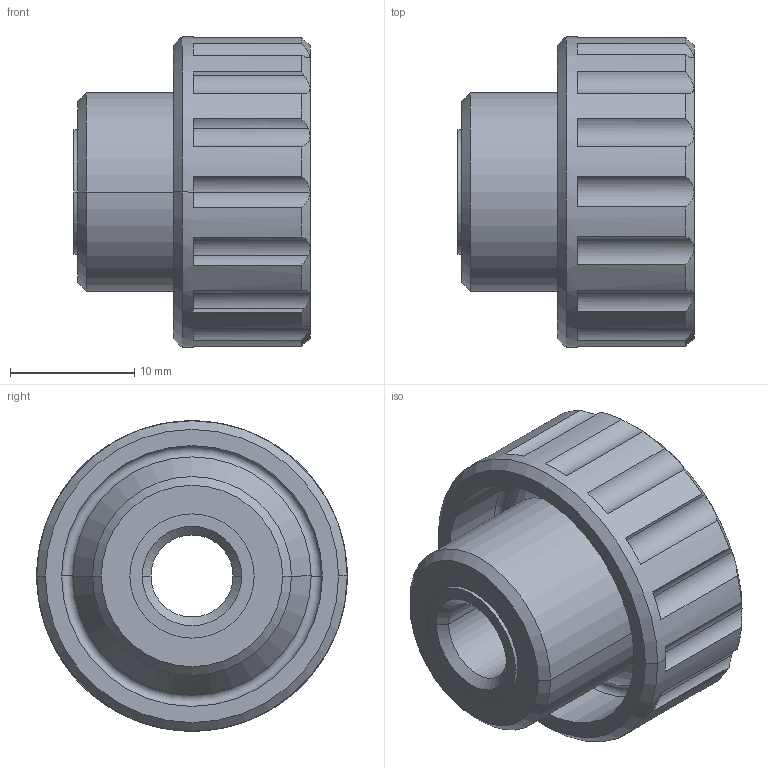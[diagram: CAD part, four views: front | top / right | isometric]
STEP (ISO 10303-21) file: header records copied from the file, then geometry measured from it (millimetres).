
FILE_DESCRIPTION (( 'STEP AP214' ), '1' );
FILE_NAME ('590-25-M8-D-ESD.step', '2025-06-16T12:57:15', ( '' ), ( '' ), 'SwSTEP 2.0', 'SolidWorks 2022', '' );
FILE_SCHEMA (( 'AUTOMOTIVE_DESIGN' ));
Length unit declared in the file: millimetre
Products named in the file (1): 590-25-M8-D-ESD
Bounding box: 19 x 25 x 25 mm (x, y, z)
Volume: 4407.7 mm3; surface area: 3167.2 mm2
Topology: 1 solids, 1 shells, 85 faces, 206 edges, 127 vertices
Faces by surface type: cylinder 35, cone 26, plane 22, torus 2
Entity records: 2815 total; most frequent: CARTESIAN_POINT 679, DIRECTION 451, ORIENTED_EDGE 412, EDGE_CURVE 206, AXIS2_PLACEMENT_3D 195, VERTEX_POINT 127, CIRCLE 109, EDGE_LOOP 91
